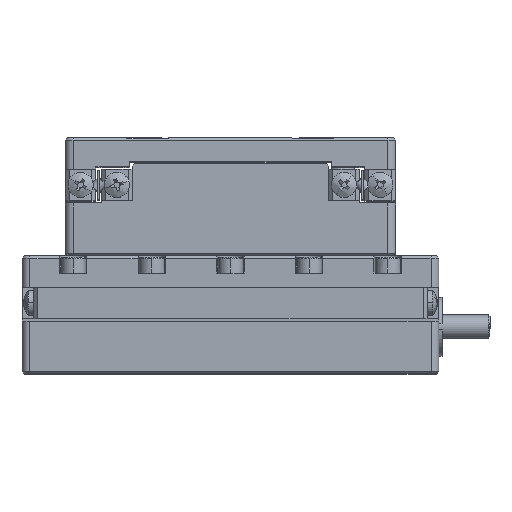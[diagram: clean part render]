
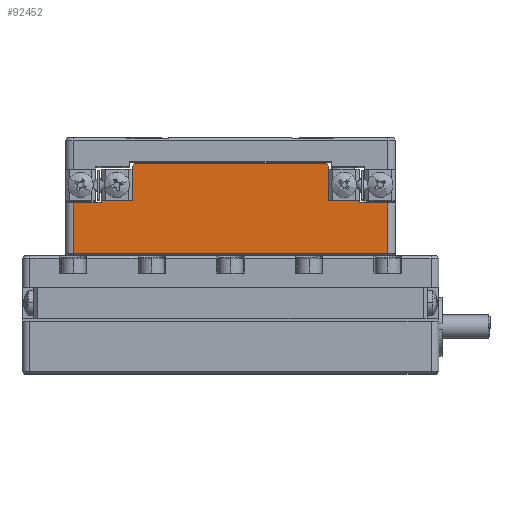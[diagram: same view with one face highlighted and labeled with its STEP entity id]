
A CAD part, top view. The second image highlights one B-rep face of the part: STEP entity #92452.
In plain terms, the highlighted planar face has unit normal (0, 0, 1).
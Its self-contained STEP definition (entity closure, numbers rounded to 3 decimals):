
#4369 = LINE ( 'NONE', #5304, #129434 ) ;
#4454 = EDGE_CURVE ( 'NONE', #82604, #12233, #14701, .T. ) ;
#4756 = CARTESIAN_POINT ( 'NONE',  ( -14.922, 33.107, 26.501 ) ) ;
#5153 = LINE ( 'NONE', #32848, #102089 ) ;
#5304 = CARTESIAN_POINT ( 'NONE',  ( -6.422, 33.407, 26.501 ) ) ;
#6321 = EDGE_CURVE ( 'NONE', #57814, #59352, #116944, .T. ) ;
#6605 = CARTESIAN_POINT ( 'NONE',  ( -47.422, 33.407, 26.501 ) ) ;
#7715 = CARTESIAN_POINT ( 'NONE',  ( -27.422, 28.407, 26.501 ) ) ;
#9682 = DIRECTION ( 'NONE',  ( 0., -1., 0. ) ) ;
#10338 = ORIENTED_EDGE ( 'NONE', *, *, #78114, .F. ) ;
#10360 = CARTESIAN_POINT ( 'NONE',  ( -39.622, 33.407, 26.501 ) ) ;
#11615 = LINE ( 'NONE', #18870, #55445 ) ;
#12233 = VERTEX_POINT ( 'NONE', #106589 ) ;
#12752 = LINE ( 'NONE', #6605, #36268 ) ;
#14701 = LINE ( 'NONE', #44877, #74057 ) ;
#16962 = ORIENTED_EDGE ( 'NONE', *, *, #67978, .F. ) ;
#17367 = LINE ( 'NONE', #7715, #115894 ) ;
#17375 = VERTEX_POINT ( 'NONE', #94836 ) ;
#18870 = CARTESIAN_POINT ( 'NONE',  ( -7.422, 33.407, 26.501 ) ) ;
#19462 = VERTEX_POINT ( 'NONE', #50153 ) ;
#20238 = CARTESIAN_POINT ( 'NONE',  ( -43.822, 28.707, 26.501 ) ) ;
#21355 = ORIENTED_EDGE ( 'NONE', *, *, #95506, .F. ) ;
#24066 = EDGE_CURVE ( 'NONE', #97805, #30632, #12752, .T. ) ;
#29980 = CARTESIAN_POINT ( 'NONE',  ( -47.422, 22.007, 26.501 ) ) ;
#30632 = VERTEX_POINT ( 'NONE', #30924 ) ;
#30924 = CARTESIAN_POINT ( 'NONE',  ( -47.422, 28.407, 26.501 ) ) ;
#32848 = CARTESIAN_POINT ( 'NONE',  ( -39.922, 33.407, 26.501 ) ) ;
#34111 = ORIENTED_EDGE ( 'NONE', *, *, #75546, .F. ) ;
#34684 = VERTEX_POINT ( 'NONE', #70353 ) ;
#35175 = VERTEX_POINT ( 'NONE', #88143 ) ;
#36158 = LINE ( 'NONE', #66976, #111076 ) ;
#36268 = VECTOR ( 'NONE', #56881, 1000. ) ;
#38558 = DIRECTION ( 'NONE',  ( 0., -1., 0. ) ) ;
#40291 = LINE ( 'NONE', #67499, #69979 ) ;
#43770 = VECTOR ( 'NONE', #123152, 1000. ) ;
#44877 = CARTESIAN_POINT ( 'NONE',  ( -6.422, 28.707, 26.501 ) ) ;
#45250 = ORIENTED_EDGE ( 'NONE', *, *, #94246, .F. ) ;
#45875 = EDGE_CURVE ( 'NONE', #17375, #19462, #72761, .T. ) ;
#48215 = CARTESIAN_POINT ( 'NONE',  ( -43.822, 33.407, 26.501 ) ) ;
#48221 = DIRECTION ( 'NONE',  ( 0.707, 0.707, 0. ) ) ;
#49258 = DIRECTION ( 'NONE',  ( 1., 0., 0. ) ) ;
#50153 = CARTESIAN_POINT ( 'NONE',  ( -7.422, 28.407, 26.501 ) ) ;
#51268 = ORIENTED_EDGE ( 'NONE', *, *, #114673, .F. ) ;
#55389 = DIRECTION ( 'NONE',  ( 0., -1., 0. ) ) ;
#55445 = VECTOR ( 'NONE', #38558, 1000. ) ;
#55636 = ORIENTED_EDGE ( 'NONE', *, *, #45875, .F. ) ;
#56096 = DIRECTION ( 'NONE',  ( -1., 0., 0. ) ) ;
#56881 = DIRECTION ( 'NONE',  ( 0., 1., 0. ) ) ;
#57045 = AXIS2_PLACEMENT_3D ( 'NONE', #93040, #73771, #94790 ) ;
#57814 = VERTEX_POINT ( 'NONE', #76432 ) ;
#59352 = VERTEX_POINT ( 'NONE', #83432 ) ;
#62025 = VECTOR ( 'NONE', #9682, 1000. ) ;
#63347 = VECTOR ( 'NONE', #48221, 1000. ) ;
#66640 = EDGE_CURVE ( 'NONE', #35175, #97805, #36158, .T. ) ;
#66916 = DIRECTION ( 'NONE',  ( 1., 0., 0. ) ) ;
#66976 = CARTESIAN_POINT ( 'NONE',  ( -6.422, 22.007, 26.501 ) ) ;
#67088 = DIRECTION ( 'NONE',  ( 1., 0., 0. ) ) ;
#67499 = CARTESIAN_POINT ( 'NONE',  ( -6.422, 28.707, 26.501 ) ) ;
#67978 = EDGE_CURVE ( 'NONE', #116057, #82563, #4369, .T. ) ;
#69979 = VECTOR ( 'NONE', #67088, 1000. ) ;
#70353 = CARTESIAN_POINT ( 'NONE',  ( -11.022, 28.707, 26.501 ) ) ;
#72761 = LINE ( 'NONE', #100259, #77410 ) ;
#73771 = DIRECTION ( 'NONE',  ( 0., 0., -1. ) ) ;
#73851 = DIRECTION ( 'NONE',  ( 0., 1., 0. ) ) ;
#74057 = VECTOR ( 'NONE', #74939, 1000. ) ;
#74939 = DIRECTION ( 'NONE',  ( 1., 0., 0. ) ) ;
#75546 = EDGE_CURVE ( 'NONE', #19462, #35175, #11615, .T. ) ;
#76432 = CARTESIAN_POINT ( 'NONE',  ( -14.922, 33.107, 26.501 ) ) ;
#77410 = VECTOR ( 'NONE', #110675, 1000. ) ;
#78114 = EDGE_CURVE ( 'NONE', #84322, #82604, #89912, .T. ) ;
#82347 = ORIENTED_EDGE ( 'NONE', *, *, #82526, .F. ) ;
#82526 = EDGE_CURVE ( 'NONE', #34684, #17375, #105801, .T. ) ;
#82563 = VERTEX_POINT ( 'NONE', #119363 ) ;
#82604 = VERTEX_POINT ( 'NONE', #20238 ) ;
#83125 = VERTEX_POINT ( 'NONE', #112236 ) ;
#83432 = CARTESIAN_POINT ( 'NONE',  ( -14.922, 28.707, 26.501 ) ) ;
#84322 = VERTEX_POINT ( 'NONE', #94950 ) ;
#88143 = CARTESIAN_POINT ( 'NONE',  ( -7.422, 22.007, 26.501 ) ) ;
#89646 = CARTESIAN_POINT ( 'NONE',  ( -11.022, 33.407, 26.501 ) ) ;
#89912 = LINE ( 'NONE', #48215, #91418 ) ;
#91248 = ORIENTED_EDGE ( 'NONE', *, *, #66640, .F. ) ;
#91418 = VECTOR ( 'NONE', #107137, 1000. ) ;
#92452 = ADVANCED_FACE ( 'NONE', ( #103628 ), #94346, .F. ) ;
#93036 = LINE ( 'NONE', #108007, #63347 ) ;
#93040 = CARTESIAN_POINT ( 'NONE',  ( -6.422, 33.407, 26.501 ) ) ;
#94246 = EDGE_CURVE ( 'NONE', #82563, #57814, #123411, .T. ) ;
#94346 = PLANE ( 'NONE',  #57045 ) ;
#94790 = DIRECTION ( 'NONE',  ( -1., 0., 0. ) ) ;
#94836 = CARTESIAN_POINT ( 'NONE',  ( -11.022, 28.407, 26.501 ) ) ;
#94950 = CARTESIAN_POINT ( 'NONE',  ( -43.822, 28.407, 26.501 ) ) ;
#95506 = EDGE_CURVE ( 'NONE', #83125, #116057, #93036, .T. ) ;
#96322 = ORIENTED_EDGE ( 'NONE', *, *, #24066, .F. ) ;
#97725 = ORIENTED_EDGE ( 'NONE', *, *, #99763, .F. ) ;
#97805 = VERTEX_POINT ( 'NONE', #29980 ) ;
#99763 = EDGE_CURVE ( 'NONE', #12233, #83125, #5153, .T. ) ;
#100259 = CARTESIAN_POINT ( 'NONE',  ( -27.422, 28.407, 26.501 ) ) ;
#100538 = EDGE_CURVE ( 'NONE', #30632, #84322, #17367, .T. ) ;
#101670 = CARTESIAN_POINT ( 'NONE',  ( -14.922, 33.407, 26.501 ) ) ;
#102089 = VECTOR ( 'NONE', #73851, 1000. ) ;
#103628 = FACE_OUTER_BOUND ( 'NONE', #112598, .T. ) ;
#105801 = LINE ( 'NONE', #89646, #62025 ) ;
#106589 = CARTESIAN_POINT ( 'NONE',  ( -39.922, 28.707, 26.501 ) ) ;
#107137 = DIRECTION ( 'NONE',  ( 0., 1., 0. ) ) ;
#108007 = CARTESIAN_POINT ( 'NONE',  ( -39.922, 33.107, 26.501 ) ) ;
#110648 = VECTOR ( 'NONE', #55389, 1000. ) ;
#110675 = DIRECTION ( 'NONE',  ( 1., 0., 0. ) ) ;
#111076 = VECTOR ( 'NONE', #56096, 1000. ) ;
#112236 = CARTESIAN_POINT ( 'NONE',  ( -39.922, 33.107, 26.501 ) ) ;
#112301 = ORIENTED_EDGE ( 'NONE', *, *, #4454, .F. ) ;
#112598 = EDGE_LOOP ( 'NONE', ( #45250, #16962, #21355, #97725, #112301, #10338, #122671, #96322, #91248, #34111, #55636, #82347, #51268, #119790 ) ) ;
#114673 = EDGE_CURVE ( 'NONE', #59352, #34684, #40291, .T. ) ;
#115894 = VECTOR ( 'NONE', #49258, 1000. ) ;
#116057 = VERTEX_POINT ( 'NONE', #10360 ) ;
#116944 = LINE ( 'NONE', #101670, #110648 ) ;
#119363 = CARTESIAN_POINT ( 'NONE',  ( -15.222, 33.407, 26.501 ) ) ;
#119790 = ORIENTED_EDGE ( 'NONE', *, *, #6321, .F. ) ;
#122671 = ORIENTED_EDGE ( 'NONE', *, *, #100538, .F. ) ;
#123152 = DIRECTION ( 'NONE',  ( 0.707, -0.707, 0. ) ) ;
#123411 = LINE ( 'NONE', #4756, #43770 ) ;
#129434 = VECTOR ( 'NONE', #66916, 1000. ) ;
